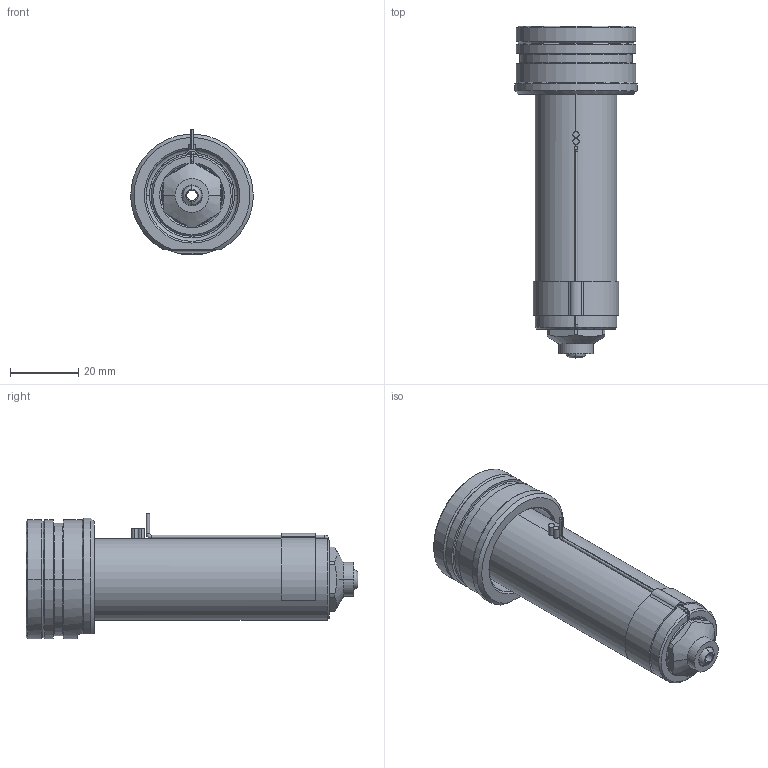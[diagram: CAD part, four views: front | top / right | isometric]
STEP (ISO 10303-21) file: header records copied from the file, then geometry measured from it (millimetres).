
FILE_DESCRIPTION((''),'2;1');
FILE_NAME('EO06_VG-BL_STD_080_SW','2024-02-19T13:00:18',('sundharh'),(''),'CREO PARAMETRIC BY PTC INC, 2023154','CREO PARAMETRIC BY PTC INC, 2023154','');
FILE_SCHEMA(('CONFIG_CONTROL_DESIGN'));
Length unit declared in the file: millimetre
Products named in the file (1): EO06_VG-BL_STD_080_SW
Bounding box: 35.93 x 97.5 x 37 mm (x, y, z)
Volume: 47168.1 mm3; surface area: 14729.3 mm2
Topology: 2 solids, 2 shells, 199 faces, 493 edges, 296 vertices
Faces by surface type: cylinder 76, plane 42, cone 36, torus 27, bspline 16, sphere 2
Entity records: 6793 total; most frequent: CARTESIAN_POINT 2014, DIRECTION 1064, ORIENTED_EDGE 974, EDGE_CURVE 487, AXIS2_PLACEMENT_3D 449, VERTEX_POINT 296, CIRCLE 266, EDGE_LOOP 213
